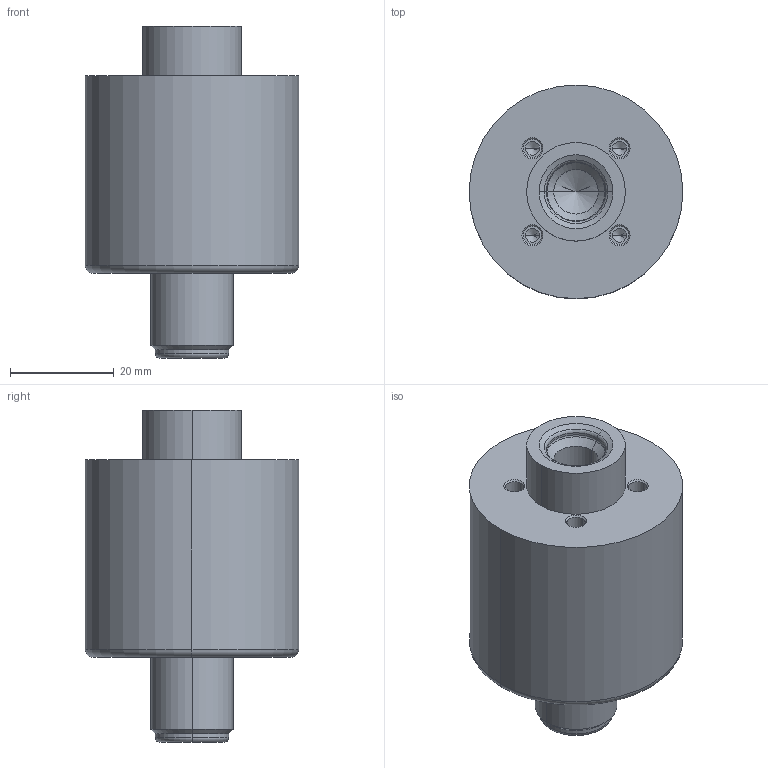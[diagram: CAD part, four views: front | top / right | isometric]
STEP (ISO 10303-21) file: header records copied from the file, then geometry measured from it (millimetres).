
FILE_DESCRIPTION (( 'STEP AP214' ), '1' );
FILE_NAME ('E45C CONNECTOR.STEP', '2008-01-31T15:28:21', ( 'Authorized User' ), ( 'Precision Sensors' ), 'SwSTEP 2.0', 'SolidWorks 2006303', '' );
FILE_SCHEMA (( 'AUTOMOTIVE_DESIGN' ));
Length unit declared in the file: inch
Products named in the file (1): E45C CONNECTOR
Bounding box: 41.27 x 41.27 x 64.14 mm (x, y, z)
Volume: 55582.4 mm3; surface area: 9552.5 mm2
Topology: 1 solids, 1 shells, 68 faces, 144 edges, 79 vertices
Faces by surface type: cylinder 28, cone 24, plane 8, torus 8
Entity records: 1779 total; most frequent: DIRECTION 354, CARTESIAN_POINT 282, ORIENTED_EDGE 268, AXIS2_PLACEMENT_3D 151, EDGE_CURVE 134, CIRCLE 82, EDGE_LOOP 79, VERTEX_POINT 79
